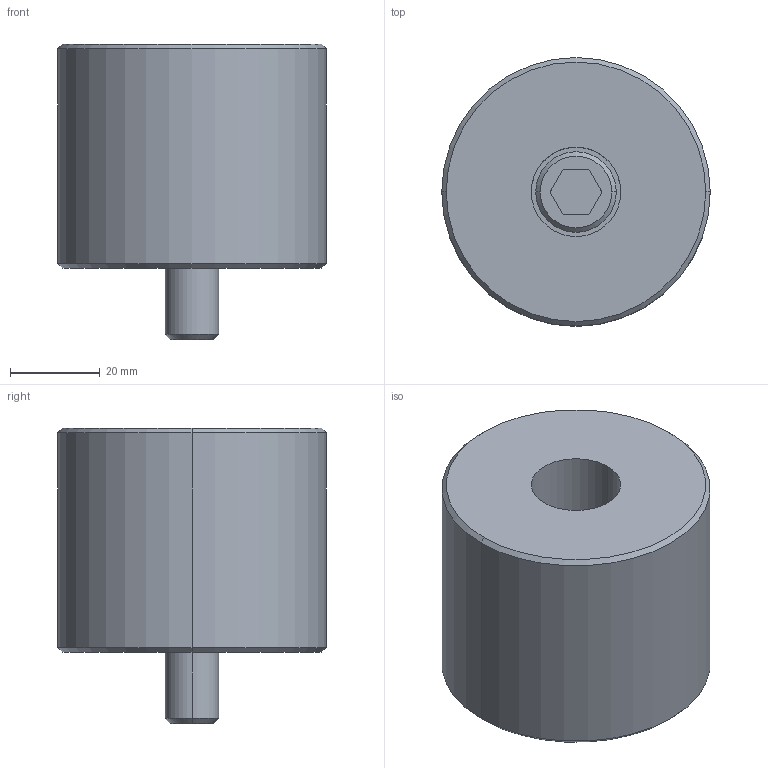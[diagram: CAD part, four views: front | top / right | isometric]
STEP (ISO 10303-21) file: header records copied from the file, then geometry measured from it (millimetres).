
FILE_DESCRIPTION((''),'2;1');
FILE_NAME('','2010-08-30T16:49:59+09:00',('misumi'),(''),'M/STEP i/f 1R2-14','CADmeister v5.1','');
FILE_SCHEMA(('AUTOMOTIVE_DESIGN'));
Length unit declared in the file: millimetre
Products named in the file (1): DEB60-50-N
Bounding box: 60 x 60 x 66 mm (x, y, z)
Volume: 133594.8 mm3; surface area: 19889.6 mm2
Topology: 2 solids, 2 shells, 31 faces, 64 edges, 40 vertices
Faces by surface type: plane 13, cylinder 10, cone 8
Entity records: 924 total; most frequent: DIRECTION 156, CARTESIAN_POINT 136, ORIENTED_EDGE 128, EDGE_CURVE 64, AXIS2_PLACEMENT_3D 60, VERTEX_POINT 40, LINE 36, VECTOR 36
